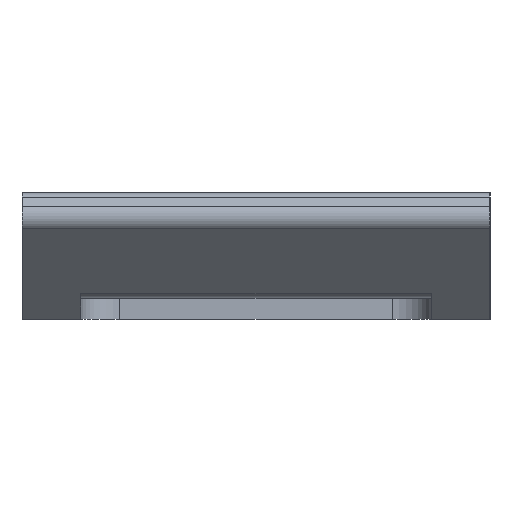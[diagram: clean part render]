
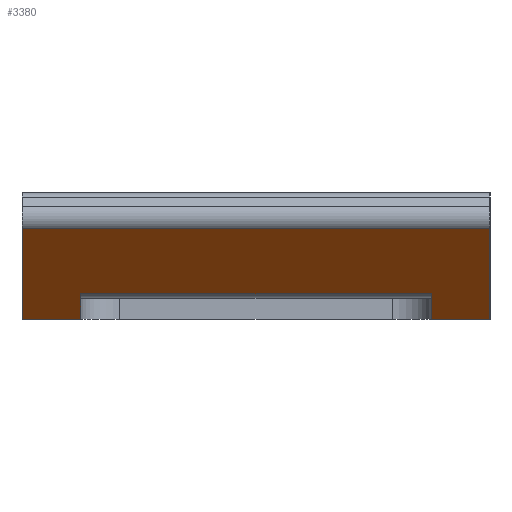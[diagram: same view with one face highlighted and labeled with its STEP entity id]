
A CAD part, left-side view. The second image highlights one B-rep face of the part: STEP entity #3380.
In plain terms, the highlighted planar face has unit normal (-0.709, 0, -0.705).
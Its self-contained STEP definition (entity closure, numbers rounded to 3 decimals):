
#13 = VECTOR ( 'NONE', #576, 1000. ) ;
#35 = DIRECTION ( 'NONE',  ( 0.705, 0., -0.709 ) ) ;
#65 = ORIENTED_EDGE ( 'NONE', *, *, #3790, .T. ) ;
#79 = DIRECTION ( 'NONE',  ( -0.705, 0., 0.709 ) ) ;
#250 = CARTESIAN_POINT ( 'NONE',  ( -130., 60., -4. ) ) ;
#396 = ORIENTED_EDGE ( 'NONE', *, *, #2029, .T. ) ;
#576 = DIRECTION ( 'NONE',  ( 0.705, 0., -0.709 ) ) ;
#592 = DIRECTION ( 'NONE',  ( 0., -1., 0. ) ) ;
#627 = VERTEX_POINT ( 'NONE', #3880 ) ;
#644 = CARTESIAN_POINT ( 'NONE',  ( -130., 60., -4. ) ) ;
#663 = EDGE_CURVE ( 'NONE', #3973, #4236, #3501, .T. ) ;
#745 = VECTOR ( 'NONE', #2252, 1000. ) ;
#818 = VECTOR ( 'NONE', #79, 1000. ) ;
#879 = ORIENTED_EDGE ( 'NONE', *, *, #4507, .T. ) ;
#890 = VERTEX_POINT ( 'NONE', #644 ) ;
#994 = VECTOR ( 'NONE', #592, 1000. ) ;
#1062 = DIRECTION ( 'NONE',  ( 0., 1., 0. ) ) ;
#1142 = VERTEX_POINT ( 'NONE', #2652 ) ;
#1175 = CARTESIAN_POINT ( 'NONE',  ( -145.13, 0., 11.23 ) ) ;
#1268 = LINE ( 'NONE', #1296, #13 ) ;
#1293 = EDGE_CURVE ( 'NONE', #1142, #3973, #3648, .T. ) ;
#1296 = CARTESIAN_POINT ( 'NONE',  ( -145.13, 60., 11.23 ) ) ;
#1351 = VERTEX_POINT ( 'NONE', #4036 ) ;
#1490 = VECTOR ( 'NONE', #35, 1000. ) ;
#1531 = CARTESIAN_POINT ( 'NONE',  ( -130., 7.5, -4. ) ) ;
#1547 = LINE ( 'NONE', #1175, #4126 ) ;
#1564 = DIRECTION ( 'NONE',  ( -0.705, 0., 0.709 ) ) ;
#1723 = LINE ( 'NONE', #3686, #4845 ) ;
#1733 = ORIENTED_EDGE ( 'NONE', *, *, #1293, .T. ) ;
#1761 = ORIENTED_EDGE ( 'NONE', *, *, #663, .T. ) ;
#1868 = EDGE_CURVE ( 'NONE', #4496, #4843, #1885, .T. ) ;
#1885 = LINE ( 'NONE', #3337, #3641 ) ;
#2029 = EDGE_CURVE ( 'NONE', #890, #1351, #1723, .T. ) ;
#2042 = PLANE ( 'NONE',  #4281 ) ;
#2044 = EDGE_CURVE ( 'NONE', #4843, #890, #1268, .T. ) ;
#2252 = DIRECTION ( 'NONE',  ( 0., -1., 0. ) ) ;
#2285 = DIRECTION ( 'NONE',  ( 0.705, 0., -0.709 ) ) ;
#2353 = DIRECTION ( 'NONE',  ( -0.709, 0., -0.705 ) ) ;
#2652 = CARTESIAN_POINT ( 'NONE',  ( -133.286, 52.5, -0.692 ) ) ;
#2842 = DIRECTION ( 'NONE',  ( 0., -1., 0. ) ) ;
#3138 = LINE ( 'NONE', #4672, #818 ) ;
#3187 = ORIENTED_EDGE ( 'NONE', *, *, #2044, .T. ) ;
#3337 = CARTESIAN_POINT ( 'NONE',  ( -141.611, 84.458, 7.688 ) ) ;
#3341 = ORIENTED_EDGE ( 'NONE', *, *, #4521, .F. ) ;
#3380 = ADVANCED_FACE ( 'NONE', ( #4346 ), #2042, .T. ) ;
#3389 = ORIENTED_EDGE ( 'NONE', *, *, #1868, .T. ) ;
#3501 = LINE ( 'NONE', #4274, #1490 ) ;
#3641 = VECTOR ( 'NONE', #1062, 1000. ) ;
#3648 = LINE ( 'NONE', #4474, #994 ) ;
#3686 = CARTESIAN_POINT ( 'NONE',  ( -130., 60., -4. ) ) ;
#3790 = EDGE_CURVE ( 'NONE', #1351, #1142, #3138, .T. ) ;
#3813 = LINE ( 'NONE', #250, #745 ) ;
#3880 = CARTESIAN_POINT ( 'NONE',  ( -130., 0., -4. ) ) ;
#3973 = VERTEX_POINT ( 'NONE', #4822 ) ;
#4036 = CARTESIAN_POINT ( 'NONE',  ( -130., 52.5, -4. ) ) ;
#4083 = CARTESIAN_POINT ( 'NONE',  ( -141.611, 0., 7.688 ) ) ;
#4126 = VECTOR ( 'NONE', #2285, 1000. ) ;
#4236 = VERTEX_POINT ( 'NONE', #1531 ) ;
#4274 = CARTESIAN_POINT ( 'NONE',  ( -122.066, 7.5, -11.987 ) ) ;
#4277 = CARTESIAN_POINT ( 'NONE',  ( -145.13, 84.458, 11.23 ) ) ;
#4281 = AXIS2_PLACEMENT_3D ( 'NONE', #4277, #2353, #1564 ) ;
#4346 = FACE_OUTER_BOUND ( 'NONE', #4642, .T. ) ;
#4474 = CARTESIAN_POINT ( 'NONE',  ( -133.286, 7.5, -0.692 ) ) ;
#4496 = VERTEX_POINT ( 'NONE', #4083 ) ;
#4507 = EDGE_CURVE ( 'NONE', #4236, #627, #3813, .T. ) ;
#4521 = EDGE_CURVE ( 'NONE', #4496, #627, #1547, .T. ) ;
#4539 = CARTESIAN_POINT ( 'NONE',  ( -141.611, 60., 7.688 ) ) ;
#4642 = EDGE_LOOP ( 'NONE', ( #3341, #3389, #3187, #396, #65, #1733, #1761, #879 ) ) ;
#4672 = CARTESIAN_POINT ( 'NONE',  ( -122.066, 52.5, -11.987 ) ) ;
#4822 = CARTESIAN_POINT ( 'NONE',  ( -133.286, 7.5, -0.692 ) ) ;
#4843 = VERTEX_POINT ( 'NONE', #4539 ) ;
#4845 = VECTOR ( 'NONE', #2842, 1000. ) ;
